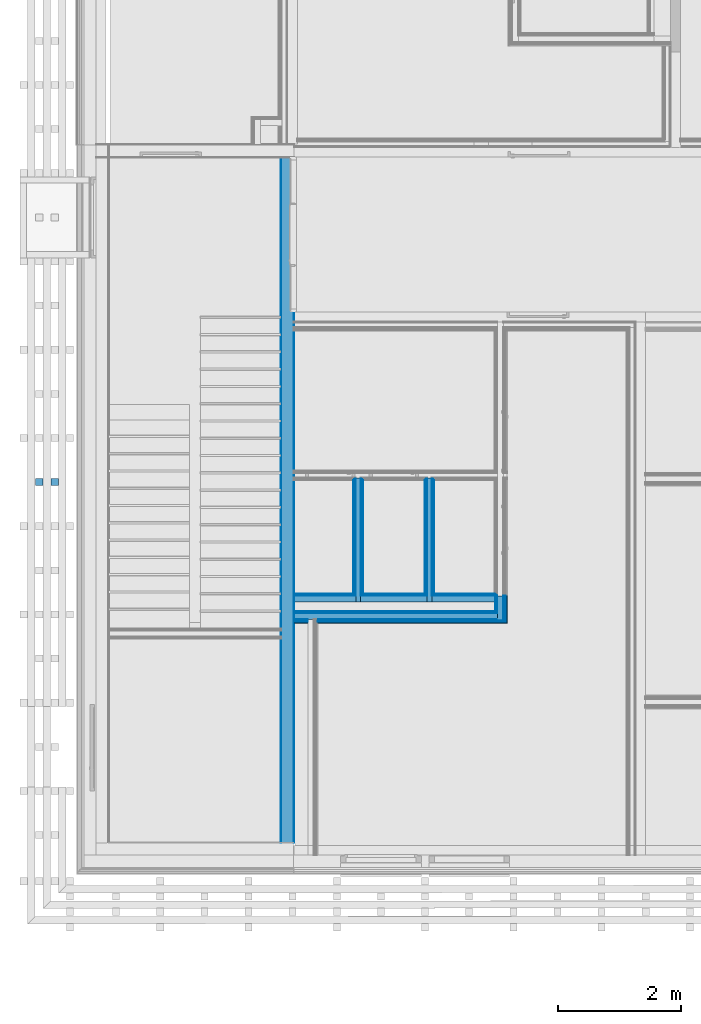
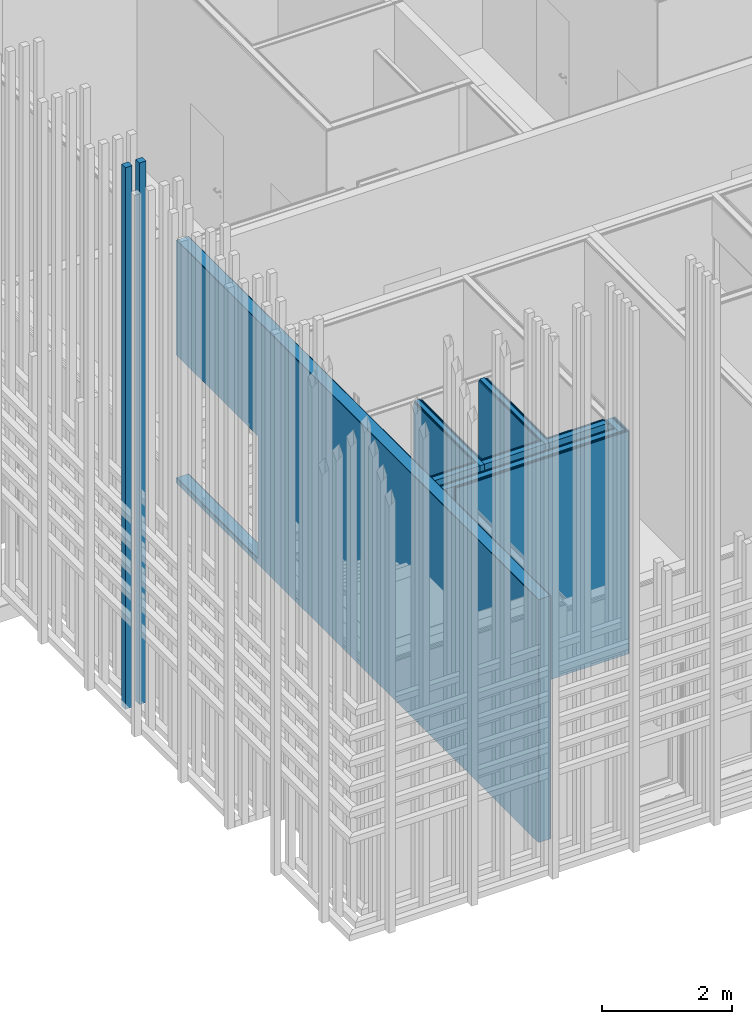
# One storey, part 149 of 260: 37 building element parts, 1 discrete accessory, 1 opening, 6 elements without a shape of their own.
"""IFC2X3 building model written with IfcOpenShell, lengths in millimetres."""

from ifc_helpers import new_model, entity, si_unit, converted_unit, derived_unit, money_unit, direction, frame, origin_with_axes, place, context, subcontext, project, spatial, faceted_brep, material, material_list, type_object, element, aggregate, save


model = new_model("IFC2X3")

# Units and contexts
model_context = context("Model", 3, precision=0.01, world=origin_with_axes(), true_north=direction((0.0, 1.0)))
body_context = subcontext(model_context, "Body", "Model", "MODEL_VIEW")
ifc_project = project(units=[si_unit("LENGTHUNIT", "METRE", prefix="MILLI"), si_unit("AREAUNIT", "SQUARE_METRE"), si_unit("VOLUMEUNIT", "CUBIC_METRE"), converted_unit("PLANEANGLEUNIT", "DEGREE", entity("IfcPlaneAngleMeasure", 0.0174532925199), si_unit("PLANEANGLEUNIT", "RADIAN"), dimensions=[0, 0, 0, 0, 0, 0, 0]), money_unit("EUR"), converted_unit("TIMEUNIT", "Year", entity("IfcTimeMeasure", 31556926.0), si_unit("TIMEUNIT", "SECOND"), dimensions=[0, 0, 1, 0, 0, 0, 0]), si_unit("MASSUNIT", "GRAM", prefix="KILO"), si_unit("THERMODYNAMICTEMPERATUREUNIT", "DEGREE_CELSIUS"), si_unit("LUMINOUSINTENSITYUNIT", "LUMEN"), si_unit("ENERGYUNIT", "JOULE", prefix="MEGA"), derived_unit("THERMALCONDUCTANCEUNIT", [(si_unit("POWERUNIT", "WATT"), 1), (si_unit("LENGTHUNIT", "METRE"), -1), (si_unit("THERMODYNAMICTEMPERATUREUNIT", "KELVIN"), -1)]), derived_unit("SPECIFICHEATCAPACITYUNIT", [(si_unit("ENERGYUNIT", "JOULE"), 1), (si_unit("MASSUNIT", "GRAM", prefix="KILO"), -1), (si_unit("THERMODYNAMICTEMPERATUREUNIT", "KELVIN"), -1)]), derived_unit("MASSDENSITYUNIT", [(si_unit("MASSUNIT", "GRAM", prefix="KILO"), 1), (si_unit("VOLUMEUNIT", "CUBIC_METRE"), -1)])], contexts=[model_context])

# Site, building, storey
site_placement = place(None, origin_with_axes())
site = spatial("IfcSite", under=ifc_project, at=site_placement, Name="Kolde pst 67a", CompositionType="ELEMENT")
building_placement = place(site_placement, origin_with_axes())
building = spatial("IfcBuilding", under=site, at=building_placement, Name="Riigigümnaasium", CompositionType="ELEMENT")
storey_placement = place(building_placement, origin_with_axes())
storey = spatial("IfcBuildingStorey", under=building, at=storey_placement, Name="1. korrus", CompositionType="ELEMENT", Elevation=0.0)

# Discrete accessory
ifc_material_1 = material(Name="_VÄLISVIIMISTLUS - sõrmjätkatud puitprussid 120x115mm, liitekohad vähemärgatavad, Platowood sõrmjätkatud kuusk või samaväärne; eeltöödeldud tuletõkkevõõbaga, tuletundlikkus B-s1, d0, Woodsafe Exterior WFX™ või samaväärne; kinnitused vastavalt EK osale")
ifc_material_list = material_list([ifc_material_1, ifc_material_1])
discrete_accessory_type = type_object("IfcDiscreteAccessoryType", Name="1+paiksekaitse 3 370 x 115")
discrete_accessory_placement = place(storey_placement, frame((-1290.00746728, 54024.7586626, 280.0), z_axis=(0.0, 0.0, 1.0), x_axis=(1.0, 0.0, 0.0)))
element("IfcDiscreteAccessory", 1, at=discrete_accessory_placement, inside=storey, type_object=discrete_accessory_type, material=ifc_material_list, Name="Päikesevarjestus", context=body_context, shape_type="Brep", body=[
    faceted_brep([(467.0, 117.5, 0.0), (347.0, 117.5, 0.0), (347.0, 117.5, 10140.0), (467.0, 117.5, 10140.0), (467.0, 2.5, 0.0), (347.0, 2.5, 0.0), (347.0, 2.5, 10140.0), (467.0, 2.5, 10140.0)], [[[0, 1, 2, 3]], [[0, 4, 5, 1]], [[1, 5, 6, 2]], [[3, 2, 6, 7]], [[4, 0, 3, 7]], [[5, 4, 7, 6]]]),
    faceted_brep([(717.0, 117.5, 0.0), (597.0, 117.5, 0.0), (597.0, 117.5, 10140.0), (717.0, 117.5, 10140.0), (717.0, 2.5, 0.0), (597.0, 2.5, 0.0), (597.0, 2.5, 10140.0), (717.0, 2.5, 10140.0)], [[[0, 1, 2, 3]], [[0, 4, 5, 1]], [[1, 5, 6, 2]], [[3, 2, 6, 7]], [[4, 0, 3, 7]], [[5, 4, 7, 6]]]),
])

# Wall, building element parts
wall_type_1 = type_object("IfcWallType", Name="SS-MK-10/2_šahti sein+plaat 140", PredefinedType="NOTDEFINED")
wall_1_placement = place(storey_placement, frame((3239.9403958, 52279.9801745, 0.0), z_axis=(0.0, 0.0, 1.0), x_axis=(1.0, 0.0, 0.0)))
wall_1 = element("IfcWall", 2, at=wall_1_placement, inside=storey, type_object=wall_type_1, Name="Varisein")
ifc_material_2 = material(Name="_VIIMISTLUSKIHT - viimistlus vastavalt SA osale")
building_element_part_1_placement = place(wall_1_placement, origin_with_axes())
building_element_part_1 = element("IfcBuildingElementPart", 3, at=building_element_part_1_placement, material=ifc_material_2, Name="_VIIMISTLUSKIHT - viimistlus vastavalt SA osale", context=body_context, shape_type="Brep", body=[
    faceted_brep([(2264.9916694, 0.0, 4170.0), (3260.05833606, 0.0, 4170.0), (3260.05833606, 0.0, 0.0), (2264.9916694, 0.0, 0.0), (3260.05833606, -15.0, 4170.0), (2264.9916694, -15.0, 4170.0), (3260.05833606, -15.0, 0.0), (2264.9916694, -15.0, 0.0)], [[[0, 1, 2, 3]], [[4, 1, 0, 5]], [[1, 4, 6, 2]], [[2, 6, 7, 3]], [[5, 0, 3, 7]], [[4, 5, 7, 6]]]),
    faceted_brep([(1109.52500273, 0.0, 4170.0), (2139.9916694, 0.0, 4170.0), (2139.9916694, 0.0, 0.0), (1109.52500273, 0.0, 0.0), (2139.9916694, -15.0, 4170.0), (1109.52500273, -15.0, 4170.0), (2139.9916694, -15.0, 0.0), (1109.52500273, -15.0, 0.0)], [[[0, 1, 2, 3]], [[4, 1, 0, 5]], [[1, 4, 6, 2]], [[2, 6, 7, 3]], [[5, 0, 3, 7]], [[4, 5, 7, 6]]]),
    faceted_brep([(9.99999440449, 0.0, 4190.0), (10.0000237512, 0.0, 4170.0), (984.525002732, 0.0, 4170.0), (984.525002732, 0.0, 0.0), (0.0, 0.0, 0.0), (0.0, 0.0, 4190.0), (9.99999433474, -15.0, 4190.0), (10.000023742, -15.0, 4170.0), (984.525002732, -15.0, 4170.0), (984.525002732, -15.0, 0.0), (0.0, -15.0, 0.0), (0.0, -15.0, 4190.0)], [[[0, 1, 2, 3, 4, 5]], [[1, 0, 6, 7]], [[8, 2, 1, 7]], [[2, 8, 9, 3]], [[3, 9, 10, 4]], [[10, 11, 5, 4]], [[6, 0, 5, 11]], [[7, 6, 11, 10, 9, 8]]]),
])
ifc_material_3 = material(Name="_PLAATMATERJAL - kipsplaat veekindel")
building_element_part_2_placement = place(wall_1_placement, origin_with_axes())
building_element_part_2 = element("IfcBuildingElementPart", 4, at=building_element_part_2_placement, material=ifc_material_3, Name="_PLAATMATERJAL - kipsplaat veekindel", context=body_context, shape_type="Brep", body=[
    faceted_brep([(2252.4916694, -15.0, 4170.0), (3275.05833606, -15.0, 4170.0), (3275.05833606, -15.0, 0.0), (2252.4916694, -15.0, 0.0), (3275.05833606, -27.5, 4170.0), (2252.4916694, -27.5, 4170.0), (3275.05833606, -27.5, 0.0), (2252.4916694, -27.5, 0.0)], [[[0, 1, 2, 3]], [[4, 1, 0, 5]], [[1, 4, 6, 2]], [[2, 6, 7, 3]], [[5, 0, 3, 7]], [[4, 5, 7, 6]]]),
    faceted_brep([(1097.02500273, -15.0, 4170.0), (2152.4916694, -15.0, 4170.0), (2152.4916694, -15.0, 0.0), (1097.02500273, -15.0, 0.0), (2152.4916694, -27.5, 4170.0), (1097.02500273, -27.5, 4170.0), (2152.4916694, -27.5, 0.0), (1097.02500273, -27.5, 0.0)], [[[0, 1, 2, 3]], [[4, 1, 0, 5]], [[1, 4, 6, 2]], [[2, 6, 7, 3]], [[5, 0, 3, 7]], [[4, 5, 7, 6]]]),
    faceted_brep([(9.99999433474, -15.0, 4190.0), (10.000023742, -15.0, 4170.0), (997.025002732, -15.0, 4170.0), (997.025002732, -15.0, 0.0), (0.0, -15.0, 0.0), (0.0, -15.0, 4190.0), (9.99999427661, -27.5, 4190.0), (10.0000237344, -27.5, 4170.0), (997.025002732, -27.5, 4170.0), (997.025002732, -27.5, 0.0), (0.0, -27.5, 0.0), (0.0, -27.5, 4190.0)], [[[0, 1, 2, 3, 4, 5]], [[1, 0, 6, 7]], [[8, 2, 1, 7]], [[2, 8, 9, 3]], [[3, 9, 10, 4]], [[10, 11, 5, 4]], [[6, 0, 5, 11]], [[7, 6, 11, 10, 9, 8]]]),
])
building_element_part_3_placement = place(wall_1_placement, origin_with_axes())
building_element_part_3 = element("IfcBuildingElementPart", 5, at=building_element_part_3_placement, material=ifc_material_3, Name="_PLAATMATERJAL - kipsplaat veekindel", context=body_context, shape_type="Brep", body=[
    faceted_brep([(2239.9916694, -27.5, 4170.0), (3287.55833606, -27.5, 4170.0), (3287.55833606, -27.5, 0.0), (2239.9916694, -27.5, 0.0), (3287.55833606, -40.0, 4170.0), (2239.9916694, -40.0, 4170.0), (3287.55833606, -40.0, 0.0), (2239.9916694, -40.0, 0.0)], [[[0, 1, 2, 3]], [[4, 1, 0, 5]], [[1, 4, 6, 2]], [[2, 6, 7, 3]], [[5, 0, 3, 7]], [[4, 5, 7, 6]]]),
    faceted_brep([(1084.52500273, -27.5, 4170.0), (2164.9916694, -27.5, 4170.0), (2164.9916694, -27.5, 0.0), (1084.52500273, -27.5, 0.0), (2164.9916694, -40.0, 4170.0), (1084.52500273, -40.0, 4170.0), (2164.9916694, -40.0, 0.0), (1084.52500273, -40.0, 0.0)], [[[0, 1, 2, 3]], [[4, 1, 0, 5]], [[1, 4, 6, 2]], [[2, 6, 7, 3]], [[5, 0, 3, 7]], [[4, 5, 7, 6]]]),
    faceted_brep([(9.99999427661, -27.5, 4190.0), (10.0000237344, -27.5, 4170.0), (1009.52500273, -27.5, 4170.0), (1009.52500273, -27.5, 0.0), (0.0, -27.5, 0.0), (0.0, -27.5, 4190.0), (9.99999421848, -40.0, 4190.0), (10.0000237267, -40.0, 4170.0), (1009.52500273, -40.0, 4170.0), (1009.52500273, -40.0, 0.0), (0.0, -40.0, 0.0), (0.0, -40.0, 4190.0)], [[[0, 1, 2, 3, 4, 5]], [[1, 0, 6, 7]], [[8, 2, 1, 7]], [[2, 8, 9, 3]], [[3, 9, 10, 4]], [[10, 11, 5, 4]], [[6, 0, 5, 11]], [[7, 6, 11, 10, 9, 8]]]),
])
ifc_material_4 = material(Name="_KARKASS - metallkarkass CW 100/50/06 ja UW 100/40/06, samm 600, vahel mineraalvill, helineeldetegur αw = 1.0,  ISOVER ACOUSTIC 100mm või samaväärne")
building_element_part_4_placement = place(wall_1_placement, origin_with_axes())
building_element_part_4 = element("IfcBuildingElementPart", 6, at=building_element_part_4_placement, material=ifc_material_4, Name="_KARKASS - metallkarkass CW 100/50/06 ja UW 100/40/06, samm 600, vahel mineraalvill, helineeldetegur αw = 1.0,  ISOVER ACOUSTIC 100mm või samaväärne", context=body_context, shape_type="Brep", body=[
    faceted_brep([(2239.9916694, -40.0, 4170.0), (3300.05833606, -40.0, 4170.0), (3300.05833606, -40.0, 0.0), (2239.9916694, -40.0, 0.0), (3300.05833606, -140.0, 4170.0), (2239.9916694, -140.0, 4170.0), (3300.05833606, -140.0, 0.0), (2239.9916694, -140.0, 0.0)], [[[0, 1, 2, 3]], [[4, 1, 0, 5]], [[1, 4, 6, 2]], [[2, 6, 7, 3]], [[5, 0, 3, 7]], [[4, 5, 7, 6]]]),
    faceted_brep([(1084.52500273, -40.0, 4170.0), (2164.9916694, -40.0, 4170.0), (2164.9916694, -40.0, 0.0), (1084.52500273, -40.0, 0.0), (2164.9916694, -140.0, 4170.0), (1084.52500273, -140.0, 4170.0), (2164.9916694, -140.0, 0.0), (1084.52500273, -140.0, 0.0)], [[[0, 1, 2, 3]], [[4, 1, 0, 5]], [[1, 4, 6, 2]], [[2, 6, 7, 3]], [[5, 0, 3, 7]], [[4, 5, 7, 6]]]),
    faceted_brep([(9.99999421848, -40.0, 4190.0), (10.0000237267, -40.0, 4170.0), (1009.52500273, -40.0, 4170.0), (1009.52500273, -40.0, 0.0), (0.0, -40.0, 0.0), (0.0, -40.0, 4190.0), (9.99999375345, -140.0, 4190.0), (10.0000236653, -140.0, 4170.0), (1009.52500273, -140.0, 4170.0), (1009.52500273, -140.0, 0.0), (0.0, -140.0, 0.0), (0.0, -140.0, 4190.0)], [[[0, 1, 2, 3, 4, 5]], [[1, 0, 6, 7]], [[8, 2, 1, 7]], [[2, 8, 9, 3]], [[3, 9, 10, 4]], [[10, 11, 5, 4]], [[6, 0, 5, 11]], [[7, 6, 11, 10, 9, 8]]]),
])
aggregate(wall_1, [building_element_part_1, building_element_part_2, building_element_part_3, building_element_part_4])

wall_type_2 = type_object("IfcWallType", Name="SS-PK-10/3_vill100+dold+värv 195", PredefinedType="NOTDEFINED")
wall_2_placement = place(storey_placement, frame((6504.99873186, 51994.9808308, 0.0), z_axis=(0.0, 0.0, 1.0), x_axis=(0.0, 1.0, 0.0)))
wall_2 = element("IfcWall", 7, at=wall_2_placement, inside=storey, type_object=wall_type_2, Name="Sisesein")
building_element_part_5_placement = place(wall_2_placement, origin_with_axes())
building_element_part_5 = element("IfcBuildingElementPart", 8, at=building_element_part_5_placement, material=ifc_material_2, Name="_VIIMISTLUSKIHT - viimistlus vastavalt SA osale", context=body_context, shape_type="Brep", body=[
    faceted_brep([(244.999343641, 0.0, 4170.0), (244.999343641, -5.0, 4170.0), (244.999343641, -5.0, 0.0), (244.999343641, 0.0, 0.0), (-5.0, -5.0, 4170.0), (-5.0, 0.0, 4170.0), (-5.0, -5.0, 0.0), (-5.0, 0.0, 0.0)], [[[0, 1, 2, 3]], [[4, 1, 0, 5]], [[1, 4, 6, 2]], [[7, 3, 2, 6]], [[5, 0, 3, 7]], [[4, 5, 7, 6]]]),
])
ifc_material_5 = material(Name="_PLAATMATERJAL - tuletõkkekipsplaat, Knauf Red GKF või samaväärne")
building_element_part_6_placement = place(wall_2_placement, origin_with_axes())
building_element_part_6 = element("IfcBuildingElementPart", 9, at=building_element_part_6_placement, material=ifc_material_5, Name="_PLAATMATERJAL - tuletõkkekipsplaat, Knauf Red GKF või samaväärne", context=body_context, shape_type="Brep", body=[
    faceted_brep([(244.999343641, -5.0, 4170.0), (244.999343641, -20.0, 4170.0), (244.999343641, -20.0, 0.0), (244.999343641, -5.0, 0.0), (-20.0, -20.0, 4170.0), (-20.0, -5.0, 4170.0), (-20.0, -20.0, 0.0), (-20.0, -5.0, 0.0)], [[[0, 1, 2, 3]], [[4, 1, 0, 5]], [[1, 4, 6, 2]], [[7, 3, 2, 6]], [[5, 0, 3, 7]], [[4, 5, 7, 6]]]),
])
ifc_material_6 = material(Name="_PLAATMATERJAL - OSB3 plaat")
building_element_part_7_placement = place(wall_2_placement, origin_with_axes())
building_element_part_7 = element("IfcBuildingElementPart", 10, at=building_element_part_7_placement, material=ifc_material_6, Name="_PLAATMATERJAL - OSB3 plaat", context=body_context, shape_type="Brep", body=[
    faceted_brep([(244.999343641, -20.0, 4170.0), (244.999343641, -35.0, 4170.0), (244.999343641, -35.0, 0.0), (244.999343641, -20.0, 0.0), (-35.0, -35.0, 4170.0), (-35.0, -20.0, 4170.0), (-35.0, -35.0, 0.0), (-35.0, -20.0, 0.0)], [[[0, 1, 2, 3]], [[4, 1, 0, 5]], [[1, 4, 6, 2]], [[7, 3, 2, 6]], [[5, 0, 3, 7]], [[4, 5, 7, 6]]]),
])
ifc_material_7 = material(Name="_KARKASS - puitpruss 100x50mm vertikaalne, samm 600mm, vahel mineraalvill, helineeldetegur αw = 1.0, ISOVER ACOUSTIC 100mm või samaväärne")
building_element_part_8_placement = place(wall_2_placement, origin_with_axes())
building_element_part_8 = element("IfcBuildingElementPart", 11, at=building_element_part_8_placement, material=ifc_material_7, Name="_KARKASS - puitpruss 100x50mm vertikaalne, samm 600mm, vahel mineraalvill, helineeldetegur αw = 1.0, ISOVER ACOUSTIC 100mm või samaväärne", context=body_context, shape_type="Brep", body=[
    faceted_brep([(244.999343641, -35.0, 4170.0), (244.999343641, -135.0, 4170.0), (244.999343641, -135.0, 0.0), (244.999343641, -35.0, 0.0), (-135.0, -135.0, 4170.0), (-135.0, -35.0, 4170.0), (-135.0, -135.0, 0.0), (-135.0, -35.0, 0.0)], [[[0, 1, 2, 3]], [[4, 1, 0, 5]], [[1, 4, 6, 2]], [[7, 3, 2, 6]], [[5, 0, 3, 7]], [[4, 5, 7, 6]]]),
])
building_element_part_9_placement = place(wall_2_placement, origin_with_axes())
building_element_part_9 = element("IfcBuildingElementPart", 12, at=building_element_part_9_placement, material=ifc_material_6, Name="_PLAATMATERJAL - OSB3 plaat", context=body_context, shape_type="Brep", body=[
    faceted_brep([(244.999343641, -135.0, 4170.0), (244.999343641, -150.0, 4170.0), (244.999343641, -150.0, 0.0), (244.999343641, -135.0, 0.0), (-150.0, -150.0, 4170.0), (-150.0, -135.0, 4170.0), (-150.0, -150.0, 0.0), (-150.0, -135.0, 0.0)], [[[0, 1, 2, 3]], [[4, 1, 0, 5]], [[1, 4, 6, 2]], [[7, 3, 2, 6]], [[5, 0, 3, 7]], [[4, 5, 7, 6]]]),
])
building_element_part_10_placement = place(wall_2_placement, origin_with_axes())
building_element_part_10 = element("IfcBuildingElementPart", 13, at=building_element_part_10_placement, material=ifc_material_5, Name="_PLAATMATERJAL - tuletõkkekipsplaat, Knauf Red GKF või samaväärne", context=body_context, shape_type="Brep", body=[
    faceted_brep([(244.999343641, -150.0, 4170.0), (244.999343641, -165.0, 4170.0), (244.999343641, -165.0, 0.0), (244.999343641, -150.0, 0.0), (-165.0, -165.0, 4170.0), (-165.0, -150.0, 4170.0), (-165.0, -165.0, 0.0), (-165.0, -150.0, 0.0)], [[[0, 1, 2, 3]], [[4, 1, 0, 5]], [[1, 4, 6, 2]], [[7, 3, 2, 6]], [[5, 0, 3, 7]], [[4, 5, 7, 6]]]),
])
ifc_material_8 = material(Name="_KARKASS - eriprofiilkinnitus vastavalt sisemisele plaatviimistlusele")
building_element_part_11_placement = place(wall_2_placement, origin_with_axes())
building_element_part_11 = element("IfcBuildingElementPart", 14, at=building_element_part_11_placement, material=ifc_material_8, Name="_KARKASS - eriprofiilkinnitus vastavalt sisemisele plaatviimistlusele", context=body_context, shape_type="Brep", body=[
    faceted_brep([(244.999343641, -165.0, 4170.0), (244.999343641, -175.0, 4170.0), (244.999343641, -175.0, 0.0), (244.999343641, -165.0, 0.0), (-175.0, -175.0, 4170.0), (-175.0, -165.0, 4170.0), (-175.0, -175.0, 0.0), (-175.0, -165.0, 0.0)], [[[0, 1, 2, 3]], [[4, 1, 0, 5]], [[1, 4, 6, 2]], [[7, 3, 2, 6]], [[5, 0, 3, 7]], [[4, 5, 7, 6]]]),
])
building_element_part_12_placement = place(wall_2_placement, origin_with_axes())
building_element_part_12 = element("IfcBuildingElementPart", 15, at=building_element_part_12_placement, material=ifc_material_2, Name="_VIIMISTLUSKIHT - viimistlus vastavalt SA osale", context=body_context, shape_type="Brep", body=[
    faceted_brep([(244.999343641, -175.0, 4170.0), (244.999343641, -195.0, 4170.0), (244.999343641, -195.0, 0.0), (244.999343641, -175.0, 0.0), (-195.0, -195.0, 4170.0), (-195.0, -175.0, 4170.0), (-195.0, -195.0, 0.0), (-195.0, -175.0, 0.0)], [[[0, 1, 2, 3]], [[4, 1, 0, 5]], [[1, 4, 6, 2]], [[7, 3, 2, 6]], [[5, 0, 3, 7]], [[4, 5, 7, 6]]]),
])
aggregate(wall_2, [building_element_part_5, building_element_part_6, building_element_part_7, building_element_part_8, building_element_part_9, building_element_part_10, building_element_part_11, building_element_part_12])

wall_type_3 = type_object("IfcWallType", Name="SS-MK-7,5/1_plaaditud 155", PredefinedType="NOTDEFINED")
wall_3_placement = place(storey_placement, frame((5519.9320652, 54114.0154098, 0.0), z_axis=(0.0, 0.0, 1.0), x_axis=(0.0, -1.0, 0.0)))
wall_3 = element("IfcWall", 16, at=wall_3_placement, inside=storey, type_object=wall_type_3, Name="Sisesein")
building_element_part_13_placement = place(wall_3_placement, origin_with_axes())
building_element_part_13 = element("IfcBuildingElementPart", 17, at=building_element_part_13_placement, material=ifc_material_2, Name="_VIIMISTLUSKIHT - viimistlus vastavalt SA osale", context=body_context, shape_type="Brep", body=[
    faceted_brep([(0.0, -15.0, 4170.0), (0.0, 0.0, 4170.0), (0.0, 0.0, 0.0), (0.0, -15.0, 0.0), (1834.0352353, 0.0, 4170.0), (1834.0352353, -15.0, 4170.0), (1834.0352353, 0.0, 0.0), (1834.0352353, -15.0, 0.0)], [[[0, 1, 2, 3]], [[4, 1, 0, 5]], [[1, 4, 6, 2]], [[2, 6, 7, 3]], [[5, 0, 3, 7]], [[4, 5, 7, 6]]]),
])
building_element_part_14_placement = place(wall_3_placement, origin_with_axes())
building_element_part_14 = element("IfcBuildingElementPart", 18, at=building_element_part_14_placement, material=ifc_material_3, Name="_PLAATMATERJAL - kipsplaat veekindel", context=body_context, shape_type="Brep", body=[
    faceted_brep([(-15.0, -27.5, 4170.0), (-15.0, -15.0, 4170.0), (-15.0, -15.0, 0.0), (-15.0, -27.5, 0.0), (1849.0352353, -15.0, 4170.0), (1849.0352353, -27.5, 4170.0), (1849.0352353, -15.0, 0.0), (1849.0352353, -27.5, 0.0)], [[[0, 1, 2, 3]], [[4, 1, 0, 5]], [[1, 4, 6, 2]], [[2, 6, 7, 3]], [[5, 0, 3, 7]], [[4, 5, 7, 6]]]),
])
building_element_part_15_placement = place(wall_3_placement, origin_with_axes())
building_element_part_15 = element("IfcBuildingElementPart", 19, at=building_element_part_15_placement, material=ifc_material_3, Name="_PLAATMATERJAL - kipsplaat veekindel", context=body_context, shape_type="Brep", body=[
    faceted_brep([(-27.5, -40.0, 4170.0), (-27.5, -27.5, 4170.0), (-27.5, -27.5, 0.0), (-27.5, -40.0, 0.0), (1861.5352353, -27.5, 4170.0), (1861.5352353, -40.0, 4170.0), (1861.5352353, -27.5, 0.0), (1861.5352353, -40.0, 0.0)], [[[0, 1, 2, 3]], [[4, 1, 0, 5]], [[1, 4, 6, 2]], [[2, 6, 7, 3]], [[5, 0, 3, 7]], [[4, 5, 7, 6]]]),
])
ifc_material_9 = material(Name="_KARKASS - metallkarkass CW 75/50, mineraalvill karkassi vahel")
building_element_part_16_placement = place(wall_3_placement, origin_with_axes())
building_element_part_16 = element("IfcBuildingElementPart", 20, at=building_element_part_16_placement, material=ifc_material_9, Name="_KARKASS - metallkarkass CW 75/50, mineraalvill karkassi vahel", context=body_context, shape_type="Brep", body=[
    faceted_brep([(-40.0, -115.0, 4170.0), (-40.0, -40.0, 4170.0), (-40.0, -40.0, 0.0), (-40.0, -115.0, 0.0), (1974.0352353, -40.0, 4170.0), (1974.0352353, -115.0, 4170.0), (1974.0352353, -40.0, 0.0), (1974.0352353, -115.0, 0.0)], [[[0, 1, 2, 3]], [[4, 1, 0, 5]], [[1, 4, 6, 2]], [[2, 6, 7, 3]], [[5, 0, 3, 7]], [[4, 5, 7, 6]]]),
])
building_element_part_17_placement = place(wall_3_placement, origin_with_axes())
building_element_part_17 = element("IfcBuildingElementPart", 21, at=building_element_part_17_placement, material=ifc_material_3, Name="_PLAATMATERJAL - kipsplaat veekindel", context=body_context, shape_type="Brep", body=[
    faceted_brep([(-27.5, -127.5, 4170.0), (-27.5, -115.0, 4170.0), (-27.5, -115.0, 0.0), (-27.5, -127.5, 0.0), (1861.5352353, -115.0, 4170.0), (1861.5352353, -127.5, 4170.0), (1861.5352353, -115.0, 0.0), (1861.5352353, -127.5, 0.0)], [[[0, 1, 2, 3]], [[4, 1, 0, 5]], [[1, 4, 6, 2]], [[2, 6, 7, 3]], [[5, 0, 3, 7]], [[4, 5, 7, 6]]]),
])
building_element_part_18_placement = place(wall_3_placement, origin_with_axes())
building_element_part_18 = element("IfcBuildingElementPart", 22, at=building_element_part_18_placement, material=ifc_material_3, Name="_PLAATMATERJAL - kipsplaat veekindel", context=body_context, shape_type="Brep", body=[
    faceted_brep([(-15.0, -140.0, 4170.0), (-15.0, -127.5, 4170.0), (-15.0, -127.5, 0.0), (-15.0, -140.0, 0.0), (1849.0352353, -127.5, 4170.0), (1849.0352353, -140.0, 4170.0), (1849.0352353, -127.5, 0.0), (1849.0352353, -140.0, 0.0)], [[[0, 1, 2, 3]], [[4, 1, 0, 5]], [[1, 4, 6, 2]], [[2, 6, 7, 3]], [[5, 0, 3, 7]], [[4, 5, 7, 6]]]),
])
building_element_part_19_placement = place(wall_3_placement, origin_with_axes())
building_element_part_19 = element("IfcBuildingElementPart", 23, at=building_element_part_19_placement, material=ifc_material_2, Name="_VIIMISTLUSKIHT - viimistlus vastavalt SA osale", context=body_context, shape_type="Brep", body=[
    faceted_brep([(0.0, -155.0, 4170.0), (0.0, -140.0, 4170.0), (0.0, -140.0, 0.0), (0.0, -155.0, 0.0), (1834.0352353, -140.0, 4170.0), (1834.0352353, -155.0, 4170.0), (1834.0352353, -140.0, 0.0), (1834.0352353, -155.0, 0.0)], [[[0, 1, 2, 3]], [[4, 1, 0, 5]], [[1, 4, 6, 2]], [[2, 6, 7, 3]], [[5, 0, 3, 7]], [[4, 5, 7, 6]]]),
])
aggregate(wall_3, [building_element_part_13, building_element_part_14, building_element_part_15, building_element_part_16, building_element_part_17, building_element_part_18, building_element_part_19])

wall_4_placement = place(storey_placement, frame((4364.46539853, 54114.0154098, 0.0), z_axis=(0.0, 0.0, 1.0), x_axis=(0.0, -1.0, 0.0)))
wall_4 = element("IfcWall", 24, at=wall_4_placement, inside=storey, type_object=wall_type_3, Name="Sisesein")
building_element_part_20_placement = place(wall_4_placement, origin_with_axes())
building_element_part_20 = element("IfcBuildingElementPart", 25, at=building_element_part_20_placement, material=ifc_material_2, Name="_VIIMISTLUSKIHT - viimistlus vastavalt SA osale", context=body_context, shape_type="Brep", body=[
    faceted_brep([(0.0, -15.0, 4170.0), (0.0, 0.0, 4170.0), (0.0, 0.0, 0.0), (0.0, -15.0, 0.0), (1834.0352353, 0.0, 4170.0), (1834.0352353, -15.0, 4170.0), (1834.0352353, 0.0, 0.0), (1834.0352353, -15.0, 0.0)], [[[0, 1, 2, 3]], [[4, 1, 0, 5]], [[1, 4, 6, 2]], [[2, 6, 7, 3]], [[5, 0, 3, 7]], [[4, 5, 7, 6]]]),
])
building_element_part_21_placement = place(wall_4_placement, origin_with_axes())
building_element_part_21 = element("IfcBuildingElementPart", 26, at=building_element_part_21_placement, material=ifc_material_3, Name="_PLAATMATERJAL - kipsplaat veekindel", context=body_context, shape_type="Brep", body=[
    faceted_brep([(-15.0, -27.5, 4170.0), (-15.0, -15.0, 4170.0), (-15.0, -15.0, 0.0), (-15.0, -27.5, 0.0), (1849.0352353, -15.0, 4170.0), (1849.0352353, -27.5, 4170.0), (1849.0352353, -15.0, 0.0), (1849.0352353, -27.5, 0.0)], [[[0, 1, 2, 3]], [[4, 1, 0, 5]], [[1, 4, 6, 2]], [[2, 6, 7, 3]], [[5, 0, 3, 7]], [[4, 5, 7, 6]]]),
])
building_element_part_22_placement = place(wall_4_placement, origin_with_axes())
building_element_part_22 = element("IfcBuildingElementPart", 27, at=building_element_part_22_placement, material=ifc_material_3, Name="_PLAATMATERJAL - kipsplaat veekindel", context=body_context, shape_type="Brep", body=[
    faceted_brep([(-27.5, -40.0, 4170.0), (-27.5, -27.5, 4170.0), (-27.5, -27.5, 0.0), (-27.5, -40.0, 0.0), (1861.5352353, -27.5, 4170.0), (1861.5352353, -40.0, 4170.0), (1861.5352353, -27.5, 0.0), (1861.5352353, -40.0, 0.0)], [[[0, 1, 2, 3]], [[4, 1, 0, 5]], [[1, 4, 6, 2]], [[2, 6, 7, 3]], [[5, 0, 3, 7]], [[4, 5, 7, 6]]]),
])
building_element_part_23_placement = place(wall_4_placement, origin_with_axes())
building_element_part_23 = element("IfcBuildingElementPart", 28, at=building_element_part_23_placement, material=ifc_material_9, Name="_KARKASS - metallkarkass CW 75/50, mineraalvill karkassi vahel", context=body_context, shape_type="Brep", body=[
    faceted_brep([(-40.0, -115.0, 4170.0), (-40.0, -40.0, 4170.0), (-40.0, -40.0, 0.0), (-40.0, -115.0, 0.0), (1974.0352353, -40.0, 4170.0), (1974.0352353, -115.0, 4170.0), (1974.0352353, -40.0, 0.0), (1974.0352353, -115.0, 0.0)], [[[0, 1, 2, 3]], [[4, 1, 0, 5]], [[1, 4, 6, 2]], [[2, 6, 7, 3]], [[5, 0, 3, 7]], [[4, 5, 7, 6]]]),
])
building_element_part_24_placement = place(wall_4_placement, origin_with_axes())
building_element_part_24 = element("IfcBuildingElementPart", 29, at=building_element_part_24_placement, material=ifc_material_3, Name="_PLAATMATERJAL - kipsplaat veekindel", context=body_context, shape_type="Brep", body=[
    faceted_brep([(-27.5, -127.5, 4170.0), (-27.5, -115.0, 4170.0), (-27.5, -115.0, 0.0), (-27.5, -127.5, 0.0), (1861.5352353, -115.0, 4170.0), (1861.5352353, -127.5, 4170.0), (1861.5352353, -115.0, 0.0), (1861.5352353, -127.5, 0.0)], [[[0, 1, 2, 3]], [[4, 1, 0, 5]], [[1, 4, 6, 2]], [[2, 6, 7, 3]], [[5, 0, 3, 7]], [[4, 5, 7, 6]]]),
])
building_element_part_25_placement = place(wall_4_placement, origin_with_axes())
building_element_part_25 = element("IfcBuildingElementPart", 30, at=building_element_part_25_placement, material=ifc_material_3, Name="_PLAATMATERJAL - kipsplaat veekindel", context=body_context, shape_type="Brep", body=[
    faceted_brep([(-15.0, -130.0, 2100.0), (-15.0, -140.0, 2100.0), (-15.0, -140.0, 4170.0), (-15.0, -127.5, 4170.0), (-15.0, -127.5, 0.0), (-14.9999821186, -130.0, 0.0), (1.4901196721e-05, -130.0, 2100.0), (1.4901196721e-05, -140.0, 2100.0), (1.4901196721e-05, -140.0, 0.0), (1849.0352353, -140.0, 0.0), (1849.0352353, -140.0, 4170.0), (1849.0352353, -127.5, 4170.0), (1849.0352353, -127.5, 0.0), (1.4901196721e-05, -130.0, 0.0)], [[[0, 1, 2, 3, 4, 5]], [[1, 0, 6, 7]], [[7, 8, 9, 10, 2, 1]], [[10, 11, 3, 2]], [[4, 3, 11, 12]], [[13, 5, 4, 12, 9, 8]], [[0, 5, 13, 6]], [[13, 8, 7, 6]], [[12, 11, 10, 9]]]),
])
building_element_part_26_placement = place(wall_4_placement, origin_with_axes())
building_element_part_26 = element("IfcBuildingElementPart", 31, at=building_element_part_26_placement, material=ifc_material_2, Name="_VIIMISTLUSKIHT - viimistlus vastavalt SA osale", context=body_context, shape_type="Brep", body=[
    faceted_brep([(0.0, -155.0, 0.0), (0.0, -155.0, 4170.0), (0.0, -140.0, 4170.0), (0.0, -140.0, 0.0), (1834.0352353, -155.0, 0.0), (1834.0352353, -155.0, 4170.0), (1834.0352353, -140.0, 4170.0), (1834.0352353, -140.0, 0.0)], [[[0, 1, 2, 3]], [[4, 5, 1, 0]], [[5, 6, 2, 1]], [[3, 2, 6, 7]], [[0, 3, 7, 4]], [[7, 6, 5, 4]]]),
])
aggregate(wall_4, [building_element_part_20, building_element_part_21, building_element_part_22, building_element_part_23, building_element_part_24, building_element_part_25, building_element_part_26])

# Wall, opening, building element parts
wall_type_4 = type_object("IfcWallType", Name="SS-RB-20/1_+2 krohv 55 dB 220", PredefinedType="NOTDEFINED")
wall_5_placement = place(storey_placement, frame((3039.94042366, 48239.9979478, -100.0), z_axis=(0.0, 0.0, 1.0), x_axis=(0.0, 1.0, 0.0)))
wall_5 = element("IfcWall", 32, at=wall_5_placement, inside=storey, type_object=wall_type_4, Name="Sisesein")
opening_placement = place(wall_5_placement, frame((9855.0, 0.0, 100.0), z_axis=(0.0, 0.0, 1.0), x_axis=(1.0, 0.0, 0.0)))
element("IfcOpeningElement", 33, at=opening_placement, cuts=wall_5, Name="Ava", context=body_context, shape_type="Brep", body=[
    faceted_brep([(1255.0, 440.0, 0.0), (1255.0, 440.0, 2300.0), (1255.0, -220.0, 2300.0), (1255.0, -220.0, 0.0), (-1255.0, 440.0, 0.0), (-1255.0, 440.0, 2300.0), (-1255.0, -220.0, 2300.0), (-1255.0, -220.0, 0.0)], [[[0, 1, 2, 3]], [[0, 4, 5, 1]], [[1, 5, 6, 2]], [[3, 2, 6, 7]], [[4, 0, 3, 7]], [[5, 4, 7, 6]]]),
])
building_element_part_27_placement = place(wall_5_placement, origin_with_axes())
building_element_part_27 = element("IfcBuildingElementPart", 34, at=building_element_part_27_placement, material=ifc_material_2, Name="_VIIMISTLUSKIHT - viimistlus vastavalt SA osale", context=body_context, shape_type="Brep", body=[
    faceted_brep([(8600.0, 0.0, 100.0), (8600.0, 0.0, 2400.0), (11110.0, 0.0, 2400.0), (11110.0, 0.0, 4550.0), (0.0, 0.0, 4550.0), (0.0, 0.0, 0.0), (11110.0, 0.0, 0.0), (11110.0, 0.0, 100.0), (8600.0, 10.0, 100.0), (8600.0, 10.0, 2400.0), (11110.0, 10.0, 2400.0), (11110.0, 10.0, 4550.0), (0.0, 10.0, 4550.0), (0.0, 10.0, 0.0), (11110.0, 10.0, 0.0), (11110.0, 10.0, 100.0)], [[[0, 1, 2, 3, 4, 5, 6, 7]], [[1, 0, 8, 9]], [[10, 2, 1, 9]], [[2, 10, 11, 3]], [[11, 12, 4, 3]], [[12, 13, 5, 4]], [[6, 5, 13, 14]], [[15, 7, 6, 14]], [[0, 7, 15, 8]], [[8, 15, 14, 13, 12, 11, 10, 9]]]),
])
ifc_material_10 = material(Name="_KANDETARIND - monteeritav raudbetoon vastavalt EK osale")
building_element_part_28_placement = place(wall_5_placement, origin_with_axes())
building_element_part_28 = element("IfcBuildingElementPart", 35, at=building_element_part_28_placement, material=ifc_material_10, Name="_KANDETARIND - monteeritav raudbetoon vastavalt EK osale", context=body_context, shape_type="Brep", body=[
    faceted_brep([(8600.0, -200.0, 100.0), (8600.0, -200.0, 2400.0), (11110.0, -200.0, 2400.0), (11110.0, -200.0, 4550.0), (0.0, -200.0, 4550.0), (0.0, -200.0, 0.0), (11110.0, -200.0, 0.0), (11110.0, -200.0, 100.0), (8600.0, 0.0, 100.0), (8600.0, 0.0, 2400.0), (11110.0, 0.0, 2400.0), (11110.0, 0.0, 4550.0), (0.0, 0.0, 4550.0), (0.0, 0.0, 0.0), (11110.0, 0.0, 0.0), (11110.0, 0.0, 100.0)], [[[0, 1, 2, 3, 4, 5, 6, 7]], [[1, 0, 8, 9]], [[10, 2, 1, 9]], [[2, 10, 11, 3]], [[11, 12, 4, 3]], [[12, 13, 5, 4]], [[6, 5, 13, 14]], [[15, 7, 6, 14]], [[0, 7, 15, 8]], [[8, 15, 14, 13, 12, 11, 10, 9]]]),
])
building_element_part_29_placement = place(wall_5_placement, origin_with_axes())
building_element_part_29 = element("IfcBuildingElementPart", 36, at=building_element_part_29_placement, material=ifc_material_2, Name="_VIIMISTLUSKIHT - viimistlus vastavalt SA osale", context=body_context, shape_type="Brep", body=[
    faceted_brep([(8600.0, -210.0, 100.0), (8600.0, -210.0, 2400.0), (11110.0, -210.0, 2400.0), (11110.0, -210.0, 4550.0), (0.0, -210.0, 4550.0), (0.0, -210.0, 0.0), (11110.0, -210.0, 0.0), (11110.0, -210.0, 100.0), (8600.0, -200.0, 100.0), (8600.0, -200.0, 2400.0), (11110.0, -200.0, 2400.0), (11110.0, -200.0, 4550.0), (0.0, -200.0, 4550.0), (0.0, -200.0, 0.0), (11110.0, -200.0, 0.0), (11110.0, -200.0, 100.0)], [[[0, 1, 2, 3, 4, 5, 6, 7]], [[1, 0, 8, 9]], [[10, 2, 1, 9]], [[2, 10, 11, 3]], [[11, 12, 4, 3]], [[12, 13, 5, 4]], [[6, 5, 13, 14]], [[15, 7, 6, 14]], [[0, 7, 15, 8]], [[8, 15, 14, 13, 12, 11, 10, 9]]]),
])
aggregate(wall_5, [building_element_part_27, building_element_part_28, building_element_part_29])

# Wall, building element parts
wall_6_placement = place(storey_placement, frame((3249.94042366, 51994.9808308, 0.0), z_axis=(0.0, 0.0, 1.0), x_axis=(1.0, 0.0, 0.0)))
wall_6 = element("IfcWall", 37, at=wall_6_placement, inside=storey, type_object=wall_type_2, Name="Sisesein")
building_element_part_30_placement = place(wall_6_placement, origin_with_axes())
building_element_part_30 = element("IfcBuildingElementPart", 38, at=building_element_part_30_placement, material=ifc_material_2, Name="_VIIMISTLUSKIHT - viimistlus vastavalt SA osale", context=body_context, shape_type="Brep", body=[
    faceted_brep([(-4.28885504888e-06, 0.0, 4170.0), (3255.0583082, 0.0, 4170.0), (3255.0583082, 0.0, 0.0), (0.0, 0.0, 0.0), (3255.0583082, -5.0, 4170.0), (-4.2919245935e-06, -5.0, 4170.0), (3255.0583082, -5.0, 0.0), (0.0, -5.0, 0.0)], [[[0, 1, 2, 3]], [[4, 1, 0, 5]], [[1, 4, 6, 2]], [[2, 6, 7, 3]], [[5, 0, 3, 7]], [[4, 5, 7, 6]]]),
])
building_element_part_31_placement = place(wall_6_placement, origin_with_axes())
building_element_part_31 = element("IfcBuildingElementPart", 39, at=building_element_part_31_placement, material=ifc_material_5, Name="_PLAATMATERJAL - tuletõkkekipsplaat, Knauf Red GKF või samaväärne", context=body_context, shape_type="Brep", body=[
    faceted_brep([(-4.2919245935e-06, -5.0, 4170.0), (3260.0583082, -5.0, 4170.0), (3260.0583082, -5.0, 0.0), (0.0, -5.0, 0.0), (3260.0583082, -20.0, 4170.0), (-4.30112612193e-06, -20.0, 4170.0), (3260.0583082, -20.0, 0.0), (0.0, -20.0, 0.0)], [[[0, 1, 2, 3]], [[4, 1, 0, 5]], [[1, 4, 6, 2]], [[2, 6, 7, 3]], [[5, 0, 3, 7]], [[4, 5, 7, 6]]]),
])
building_element_part_32_placement = place(wall_6_placement, origin_with_axes())
building_element_part_32 = element("IfcBuildingElementPart", 40, at=building_element_part_32_placement, material=ifc_material_6, Name="_PLAATMATERJAL - OSB3 plaat", context=body_context, shape_type="Brep", body=[
    faceted_brep([(-4.30113322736e-06, -20.0, 4170.0), (3275.0583082, -20.0, 4170.0), (3275.0583082, -20.0, 0.0), (0.0, -20.0, 0.0), (3275.0583082, -35.0, 4170.0), (-4.31033475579e-06, -35.0, 4170.0), (3275.0583082, -35.0, 0.0), (0.0, -35.0, 0.0)], [[[0, 1, 2, 3]], [[4, 1, 0, 5]], [[1, 4, 6, 2]], [[2, 6, 7, 3]], [[5, 0, 3, 7]], [[4, 5, 7, 6]]]),
])
building_element_part_33_placement = place(wall_6_placement, origin_with_axes())
building_element_part_33 = element("IfcBuildingElementPart", 41, at=building_element_part_33_placement, material=ifc_material_7, Name="_KARKASS - puitpruss 100x50mm vertikaalne, samm 600mm, vahel mineraalvill, helineeldetegur αw = 1.0, ISOVER ACOUSTIC 100mm või samaväärne", context=body_context, shape_type="Brep", body=[
    faceted_brep([(-4.31033475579e-06, -35.0, 4170.0), (3290.0583082, -35.0, 4170.0), (3290.0583082, -35.0, 0.0), (0.0, -35.0, 0.0), (3290.0583082, -135.0, 4170.0), (-4.37169722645e-06, -135.0, 4170.0), (3290.0583082, -135.0, 0.0), (0.0, -135.0, 0.0)], [[[0, 1, 2, 3]], [[4, 1, 0, 5]], [[1, 4, 6, 2]], [[2, 6, 7, 3]], [[5, 0, 3, 7]], [[4, 5, 7, 6]]]),
])
building_element_part_34_placement = place(wall_6_placement, origin_with_axes())
building_element_part_34 = element("IfcBuildingElementPart", 42, at=building_element_part_34_placement, material=ifc_material_6, Name="_PLAATMATERJAL - OSB3 plaat", context=body_context, shape_type="Brep", body=[
    faceted_brep([(-4.37169722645e-06, -135.0, 4170.0), (220.0, -135.0, 4170.0), (220.0, -135.0, 0.0), (0.0, -135.0, 0.0), (220.0, -150.0, 4170.0), (-4.38089875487e-06, -150.0, 4170.0), (220.0, -150.0, 0.0), (0.0, -150.0, 0.0)], [[[0, 1, 2, 3]], [[4, 1, 0, 5]], [[1, 4, 6, 2]], [[2, 6, 7, 3]], [[5, 0, 3, 7]], [[4, 5, 7, 6]]]),
    faceted_brep([(380.0, -135.0, 4170.0), (3390.0583082, -135.0, 4170.0), (3390.0583082, -135.0, 0.0), (380.0, -135.0, 0.0), (3390.0583082, -150.0, 4170.0), (380.0, -150.0, 4170.0), (3390.0583082, -150.0, 0.0), (380.0, -150.0, 0.0)], [[[0, 1, 2, 3]], [[4, 1, 0, 5]], [[1, 4, 6, 2]], [[2, 6, 7, 3]], [[5, 0, 3, 7]], [[4, 5, 7, 6]]]),
])
building_element_part_35_placement = place(wall_6_placement, origin_with_axes())
building_element_part_35 = element("IfcBuildingElementPart", 43, at=building_element_part_35_placement, material=ifc_material_5, Name="_PLAATMATERJAL - tuletõkkekipsplaat, Knauf Red GKF või samaväärne", context=body_context, shape_type="Brep", body=[
    faceted_brep([(-4.3809058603e-06, -150.0, 4170.0), (220.0, -150.0, 4170.0), (220.0, -150.0, 0.0), (0.0, -150.0, 0.0), (220.0, -165.0, 4170.0), (-4.39010738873e-06, -165.0, 4170.0), (220.0, -165.0, 0.0), (0.0, -165.0, 0.0)], [[[0, 1, 2, 3]], [[4, 1, 0, 5]], [[1, 4, 6, 2]], [[2, 6, 7, 3]], [[5, 0, 3, 7]], [[4, 5, 7, 6]]]),
    faceted_brep([(380.0, -150.0, 4170.0), (3405.0583082, -150.0, 4170.0), (3405.0583082, -150.0, 0.0), (380.0, -150.0, 0.0), (3405.0583082, -165.0, 4170.0), (380.0, -165.0, 4170.0), (3405.0583082, -165.0, 0.0), (380.0, -165.0, 0.0)], [[[0, 1, 2, 3]], [[4, 1, 0, 5]], [[1, 4, 6, 2]], [[2, 6, 7, 3]], [[5, 0, 3, 7]], [[4, 5, 7, 6]]]),
])
building_element_part_36_placement = place(wall_6_placement, origin_with_axes())
building_element_part_36 = element("IfcBuildingElementPart", 44, at=building_element_part_36_placement, material=ifc_material_8, Name="_KARKASS - eriprofiilkinnitus vastavalt sisemisele plaatviimistlusele", context=body_context, shape_type="Brep", body=[
    faceted_brep([(-4.39010738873e-06, -165.0, 4170.0), (220.0, -165.0, 4170.0), (220.0, -165.0, 0.0), (0.0, -165.0, 0.0), (220.0, -175.0, 4170.0), (-4.39624647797e-06, -175.0, 4170.0), (220.0, -175.0, 0.0), (0.0, -175.0, 0.0)], [[[0, 1, 2, 3]], [[4, 1, 0, 5]], [[1, 4, 6, 2]], [[2, 6, 7, 3]], [[5, 0, 3, 7]], [[4, 5, 7, 6]]]),
    faceted_brep([(380.0, -165.0, 4170.0), (3420.0583082, -165.0, 4170.0), (3420.0583082, -165.0, 0.0), (380.0, -165.0, 0.0), (3420.0583082, -175.0, 4170.0), (380.0, -175.0, 4170.0), (3420.0583082, -175.0, 0.0), (380.0, -175.0, 0.0)], [[[0, 1, 2, 3]], [[4, 1, 0, 5]], [[1, 4, 6, 2]], [[2, 6, 7, 3]], [[5, 0, 3, 7]], [[4, 5, 7, 6]]]),
])
building_element_part_37_placement = place(wall_6_placement, origin_with_axes())
building_element_part_37 = element("IfcBuildingElementPart", 45, at=building_element_part_37_placement, material=ifc_material_2, Name="_VIIMISTLUSKIHT - viimistlus vastavalt SA osale", context=body_context, shape_type="Brep", body=[
    faceted_brep([(-4.39624647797e-06, -175.0, 4170.0), (220.0, -175.0, 4170.0), (220.0, -175.0, 0.0), (0.0, -175.0, 0.0), (220.0, -195.0, 4170.0), (-4.40851755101e-06, -195.0, 4170.0), (220.0, -195.0, 0.0), (0.0, -195.0, 0.0)], [[[0, 1, 2, 3]], [[4, 1, 0, 5]], [[1, 4, 6, 2]], [[2, 6, 7, 3]], [[5, 0, 3, 7]], [[4, 5, 7, 6]]]),
    faceted_brep([(380.0, -175.0, 4170.0), (3430.0583082, -175.0, 4170.0), (3430.0583082, -175.0, 0.0), (380.0, -175.0, 0.0), (3430.0583082, -195.0, 4170.0), (380.0, -195.0, 4170.0), (3430.0583082, -195.0, 0.0), (380.0, -195.0, 0.0)], [[[0, 1, 2, 3]], [[4, 1, 0, 5]], [[1, 4, 6, 2]], [[2, 6, 7, 3]], [[5, 0, 3, 7]], [[4, 5, 7, 6]]]),
])
aggregate(wall_6, [building_element_part_30, building_element_part_31, building_element_part_32, building_element_part_33, building_element_part_34, building_element_part_35, building_element_part_36, building_element_part_37])

save(model, "model.ifc")
